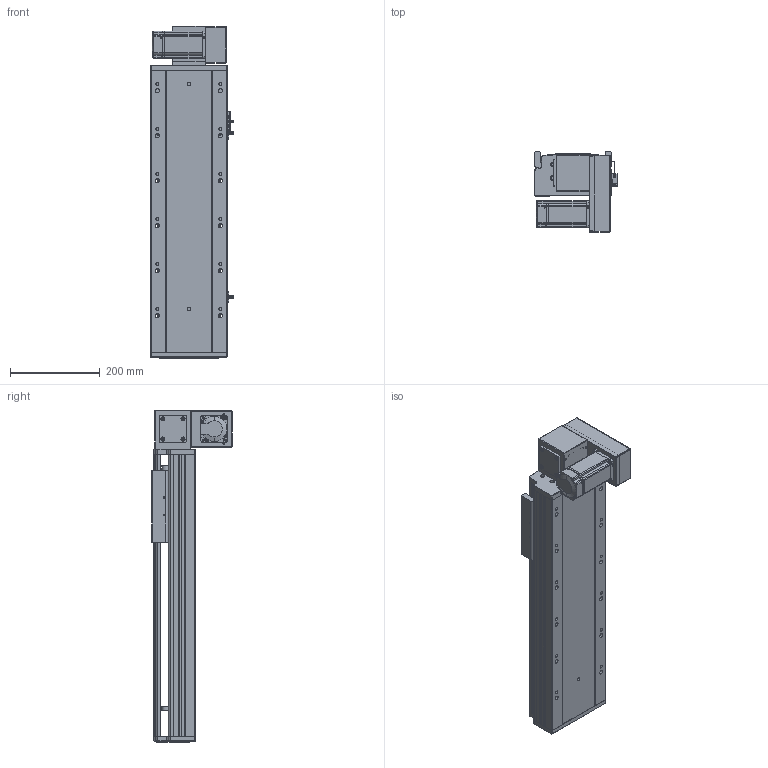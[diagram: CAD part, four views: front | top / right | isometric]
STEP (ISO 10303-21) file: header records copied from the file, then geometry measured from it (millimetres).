
FILE_DESCRIPTION (( 'STEP AP203' ), '1' );
FILE_NAME ('RY170-T-300-DR-P400W.SLDASM_350.step', '2021-03-01T08:22:37', ( '盈信电脑' ), ( '东莞市道滘镇水果街19号' ), 'SwSTEP 2.0', 'SolidWorks 2012', '' );
FILE_SCHEMA (( 'CONFIG_CONTROL_DESIGN' ));
Length unit declared in the file: millimetre
Products named in the file (19): RY170-T-300-DR-P400W.SLDASM_350; 15; RY170-T蹟翐M4; 滅袉蝶18-10; RY170-T-呴雄粣揤踡啣; RY170-T肮祭湍揤踡輸2; RY170-T肮祭謫裔啣; RY120-T主同步轮轴承压盖; RY170翋肮祭謫釱; RY170肮祭謫萇儂欶; RY170-T肮祭湍揤踡輸1; RY170同步轮电机安装板(400W); RY170外置感应片(200共用）; 覜茼ん672; RY170綴裔啣; RY170肮祭謫ヶ裔啣; RY170-T-300肮祭謫倰第菁釱-DR_350; RY170肮祭湍臏賑輸; RY170-T-300肮祭謫倰第裔啣-DR_350
Assembly tree (23 placements, depth 2):
  RY170-T-300-DR-P400W.SLDASM_350
    RY170-T-300肮祭謫倰第菁釱-DR_350
    RY170肮祭湍臏賑輸
    RY170-T-300肮祭謫倰第裔啣-DR_350
    RY170綴裔啣
    覜茼ん672  x3
    RY170外置感应片(200共用）
    RY170肮祭謫ヶ裔啣
    RY170翋肮祭謫釱
    RY170同步轮电机安装板(400W)
    RY170肮祭謫萇儂欶
    RY170-T肮祭湍揤踡輸1  x2
    RY170-T肮祭湍揤踡輸2  x2
    RY120-T主同步轮轴承压盖
    RY170-T肮祭謫裔啣
    RY170-T蹟翐M4
    滅袉蝶18-10  x2
    RY170-T-呴雄粣揤踡啣
    15
Bounding box: 183.7 x 178 x 738 mm (x, y, z)
Volume: 4200478.3 mm3; surface area: 1386527.9 mm2
Topology: 23 solids, 23 shells, 2638 faces, 7290 edges, 4705 vertices
Faces by surface type: plane 1262, cylinder 1150, cone 196, bspline 30
Entity records: 78005 total; most frequent: CARTESIAN_POINT 17004, ORIENTED_EDGE 12368, DIRECTION 12214, EDGE_CURVE 6184, AXIS2_PLACEMENT_3D 4265, VERTEX_POINT 4061, VECTOR 3684, LINE 3684
